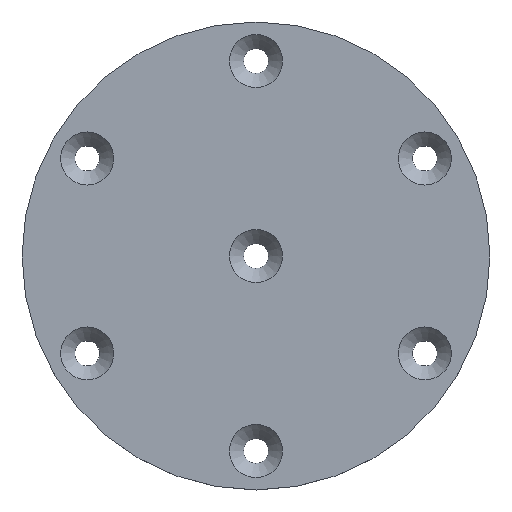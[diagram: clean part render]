
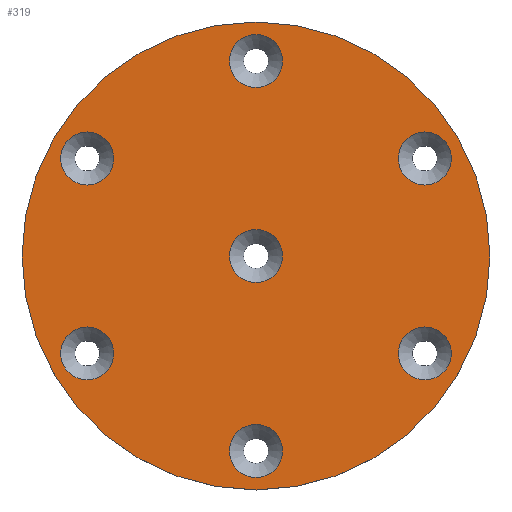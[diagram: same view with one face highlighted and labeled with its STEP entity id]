
A CAD part, top view. The second image highlights one B-rep face of the part: STEP entity #319.
In plain terms, the highlighted planar face has unit normal (0, 0, 1).
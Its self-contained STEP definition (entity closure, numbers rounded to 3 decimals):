
#22=FACE_BOUND('',#82,.T.);
#23=FACE_BOUND('',#83,.T.);
#24=FACE_BOUND('',#84,.T.);
#25=FACE_BOUND('',#85,.T.);
#26=FACE_BOUND('',#86,.T.);
#27=FACE_BOUND('',#87,.T.);
#28=FACE_BOUND('',#88,.T.);
#30=PLANE('',#382);
#56=FACE_OUTER_BOUND('',#81,.T.);
#81=EDGE_LOOP('',(#286));
#82=EDGE_LOOP('',(#287));
#83=EDGE_LOOP('',(#288));
#84=EDGE_LOOP('',(#289));
#85=EDGE_LOOP('',(#290));
#86=EDGE_LOOP('',(#291));
#87=EDGE_LOOP('',(#292));
#88=EDGE_LOOP('',(#293));
#124=CIRCLE('',#345,30.);
#132=CIRCLE('',#355,3.4);
#134=CIRCLE('',#359,3.4);
#136=CIRCLE('',#363,3.4);
#138=CIRCLE('',#367,3.4);
#140=CIRCLE('',#371,3.4);
#142=CIRCLE('',#375,3.4);
#144=CIRCLE('',#379,3.4);
#149=VERTEX_POINT('',#497);
#157=VERTEX_POINT('',#516);
#159=VERTEX_POINT('',#524);
#161=VERTEX_POINT('',#532);
#163=VERTEX_POINT('',#540);
#165=VERTEX_POINT('',#548);
#167=VERTEX_POINT('',#556);
#169=VERTEX_POINT('',#564);
#176=EDGE_CURVE('',#149,#149,#124,.T.);
#184=EDGE_CURVE('',#157,#157,#132,.T.);
#188=EDGE_CURVE('',#159,#159,#134,.T.);
#192=EDGE_CURVE('',#161,#161,#136,.T.);
#196=EDGE_CURVE('',#163,#163,#138,.T.);
#200=EDGE_CURVE('',#165,#165,#140,.T.);
#204=EDGE_CURVE('',#167,#167,#142,.T.);
#208=EDGE_CURVE('',#169,#169,#144,.T.);
#286=ORIENTED_EDGE('',*,*,#176,.T.);
#287=ORIENTED_EDGE('',*,*,#184,.T.);
#288=ORIENTED_EDGE('',*,*,#188,.T.);
#289=ORIENTED_EDGE('',*,*,#192,.T.);
#290=ORIENTED_EDGE('',*,*,#196,.T.);
#291=ORIENTED_EDGE('',*,*,#200,.T.);
#292=ORIENTED_EDGE('',*,*,#204,.T.);
#293=ORIENTED_EDGE('',*,*,#208,.T.);
#319=ADVANCED_FACE('',(#56,#22,#23,#24,#25,#26,#27,#28),#30,.T.);
#345=AXIS2_PLACEMENT_3D('',#499,#397,#398);
#355=AXIS2_PLACEMENT_3D('',#517,#417,#418);
#359=AXIS2_PLACEMENT_3D('',#525,#427,#428);
#363=AXIS2_PLACEMENT_3D('',#533,#437,#438);
#367=AXIS2_PLACEMENT_3D('',#541,#447,#448);
#371=AXIS2_PLACEMENT_3D('',#549,#457,#458);
#375=AXIS2_PLACEMENT_3D('',#557,#467,#468);
#379=AXIS2_PLACEMENT_3D('',#565,#477,#478);
#382=AXIS2_PLACEMENT_3D('',#571,#485,#486);
#397=DIRECTION('center_axis',(0.,0.,1.));
#398=DIRECTION('ref_axis',(1.,0.,0.));
#417=DIRECTION('center_axis',(0.,0.,-1.));
#418=DIRECTION('ref_axis',(1.,0.,0.));
#427=DIRECTION('center_axis',(0.,0.,-1.));
#428=DIRECTION('ref_axis',(1.,0.,0.));
#437=DIRECTION('center_axis',(0.,0.,-1.));
#438=DIRECTION('ref_axis',(1.,0.,0.));
#447=DIRECTION('center_axis',(0.,0.,-1.));
#448=DIRECTION('ref_axis',(1.,0.,0.));
#457=DIRECTION('center_axis',(0.,0.,-1.));
#458=DIRECTION('ref_axis',(1.,0.,0.));
#467=DIRECTION('center_axis',(0.,0.,-1.));
#468=DIRECTION('ref_axis',(1.,0.,0.));
#477=DIRECTION('center_axis',(0.,0.,-1.));
#478=DIRECTION('ref_axis',(1.,0.,0.));
#485=DIRECTION('center_axis',(0.,0.,1.));
#486=DIRECTION('ref_axis',(1.,0.,0.));
#497=CARTESIAN_POINT('',(-30.,0.,0.));
#499=CARTESIAN_POINT('Origin',(0.,0.,0.));
#516=CARTESIAN_POINT('',(18.251,12.5,0.));
#517=CARTESIAN_POINT('Origin',(21.651,12.5,0.));
#524=CARTESIAN_POINT('',(-3.4,-25.,0.));
#525=CARTESIAN_POINT('Origin',(0.,-25.,0.));
#532=CARTESIAN_POINT('',(-25.051,12.5,0.));
#533=CARTESIAN_POINT('Origin',(-21.651,12.5,0.));
#540=CARTESIAN_POINT('',(-3.4,25.,0.));
#541=CARTESIAN_POINT('Origin',(0.,25.,0.));
#548=CARTESIAN_POINT('',(-25.051,-12.5,0.));
#549=CARTESIAN_POINT('Origin',(-21.651,-12.5,0.));
#556=CARTESIAN_POINT('',(18.251,-12.5,0.));
#557=CARTESIAN_POINT('Origin',(21.651,-12.5,0.));
#564=CARTESIAN_POINT('',(-3.4,0.,0.));
#565=CARTESIAN_POINT('Origin',(0.,0.,0.));
#571=CARTESIAN_POINT('Origin',(0.,0.,0.));
